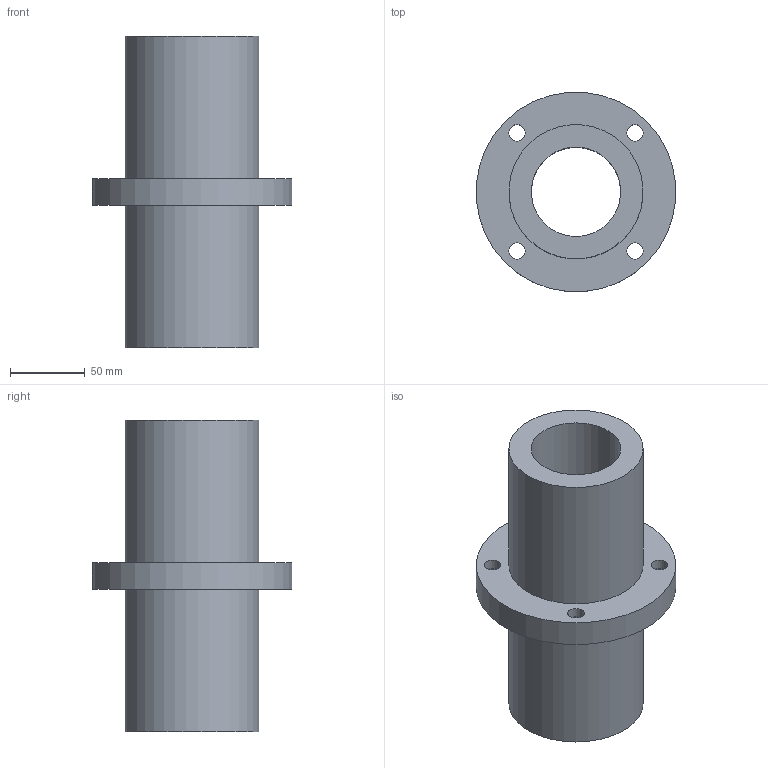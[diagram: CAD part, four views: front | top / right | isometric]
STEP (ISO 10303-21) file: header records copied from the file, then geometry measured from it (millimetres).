
FILE_DESCRIPTION(/* description */ (''),/* implementation_level */ '2;1');
FILE_NAME(/* name */ 'LMFM60LUU',/* time_stamp */ '2019-07-03T11:01:35+02:00',/* author */ ('VĂ©gh MĂˇtĂ©'),/* organization */ ('Bearing Kft'),/* preprocessor_version */ 'ST-DEVELOPER v16.7',/* originating_system */ 'DEX',/* authorisation */ $);
FILE_SCHEMA (('AUTOMOTIVE_DESIGN {1 0 10303 214 3 1 1}'));
Length unit declared in the file: millimetre
Products named in the file (1): LMFM60LUU
Bounding box: 133.49 x 133.49 x 209 mm (x, y, z)
Volume: 865278.8 mm3; surface area: 126149.3 mm2
Topology: 1 solids, 1 shells, 337 faces, 844 edges, 564 vertices
Faces by surface type: plane 263, bspline 61, cylinder 13
Full cylindrical faces by diameter (mm): 11 x4, 17 x4, 60 x1, 90 x2, 134 x1
Entity records: 13506 total; most frequent: CARTESIAN_POINT 5845, ORIENTED_EDGE 1648, DIRECTION 1282, EDGE_CURVE 824, LINE 676, VECTOR 676, VERTEX_POINT 560, EDGE_LOOP 418
